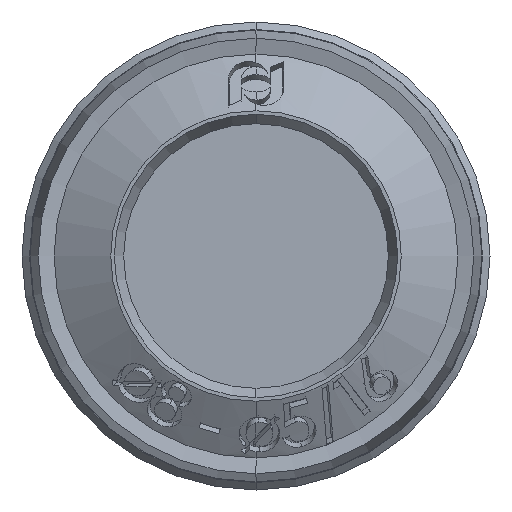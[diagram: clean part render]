
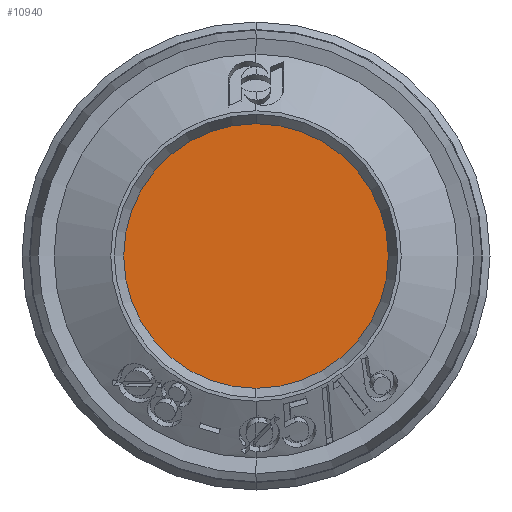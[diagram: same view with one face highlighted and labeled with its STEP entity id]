
A CAD part, front view. The second image highlights one B-rep face of the part: STEP entity #10940.
In plain terms, the highlighted planar face has unit normal (0, -1, 0).
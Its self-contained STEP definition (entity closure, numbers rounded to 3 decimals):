
#4151 = CIRCLE ( 'NONE', #26893, 4.1 ) ;
#4277 = CIRCLE ( 'NONE', #26953, 4.1 ) ;
#5112 = CARTESIAN_POINT ( 'NONE',  ( 0., 2.7, 0. ) ) ;
#5113 = DIRECTION ( 'NONE',  ( 0., -1., 0. ) ) ;
#5114 = DIRECTION ( 'NONE',  ( 0., 0., 1. ) ) ;
#5996 = EDGE_LOOP ( 'NONE', ( #15339, #15340 ) ) ;
#10940 = ADVANCED_FACE ( 'NONE', ( #18225 ), #19438, .T. ) ;
#11971 = EDGE_CURVE ( 'NONE', #16634, #16633, #4151, .T. ) ;
#15339 = ORIENTED_EDGE ( 'NONE', *, *, #11971, .T. ) ;
#15340 = ORIENTED_EDGE ( 'NONE', *, *, #25543, .T. ) ;
#16633 = VERTEX_POINT ( 'NONE', #19966 ) ;
#16634 = VERTEX_POINT ( 'NONE', #20032 ) ;
#18225 = FACE_OUTER_BOUND ( 'NONE', #5996, .T. ) ;
#19438 = PLANE ( 'NONE',  #26605 ) ;
#19446 = CARTESIAN_POINT ( 'NONE',  ( 0., 2.7, 0. ) ) ;
#19447 = DIRECTION ( 'NONE',  ( 0., -1., 0. ) ) ;
#19448 = DIRECTION ( 'NONE',  ( 1., 0., 0. ) ) ;
#19966 = CARTESIAN_POINT ( 'NONE',  ( 0., 2.7, -4.1 ) ) ;
#20032 = CARTESIAN_POINT ( 'NONE',  ( 0., 2.7, 4.1 ) ) ;
#21236 = CARTESIAN_POINT ( 'NONE',  ( 0., 2.7, 0. ) ) ;
#21237 = DIRECTION ( 'NONE',  ( 0., -1., 0. ) ) ;
#21238 = DIRECTION ( 'NONE',  ( 0., 0., 1. ) ) ;
#25543 = EDGE_CURVE ( 'NONE', #16633, #16634, #4277, .T. ) ;
#26605 = AXIS2_PLACEMENT_3D ( 'NONE', #19446, #19447, #19448 ) ;
#26893 = AXIS2_PLACEMENT_3D ( 'NONE', #5112, #5113, #5114 ) ;
#26953 = AXIS2_PLACEMENT_3D ( 'NONE', #21236, #21237, #21238 ) ;
